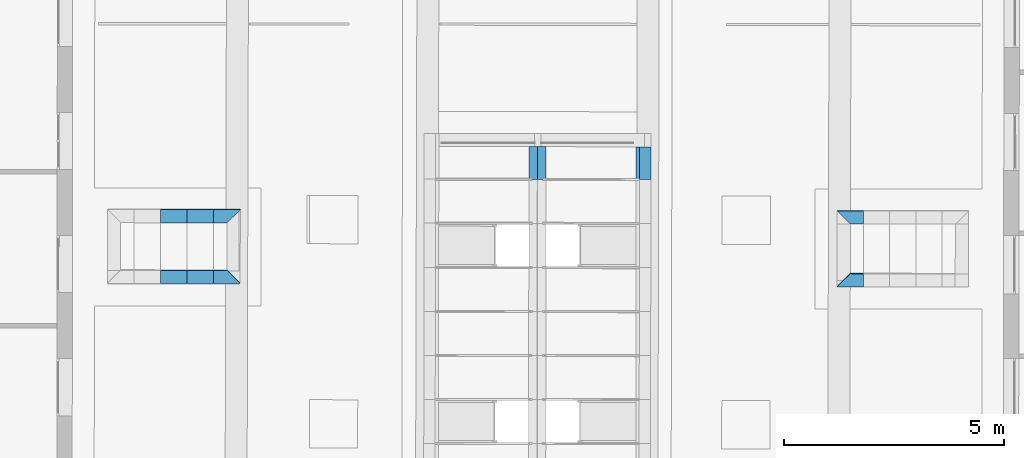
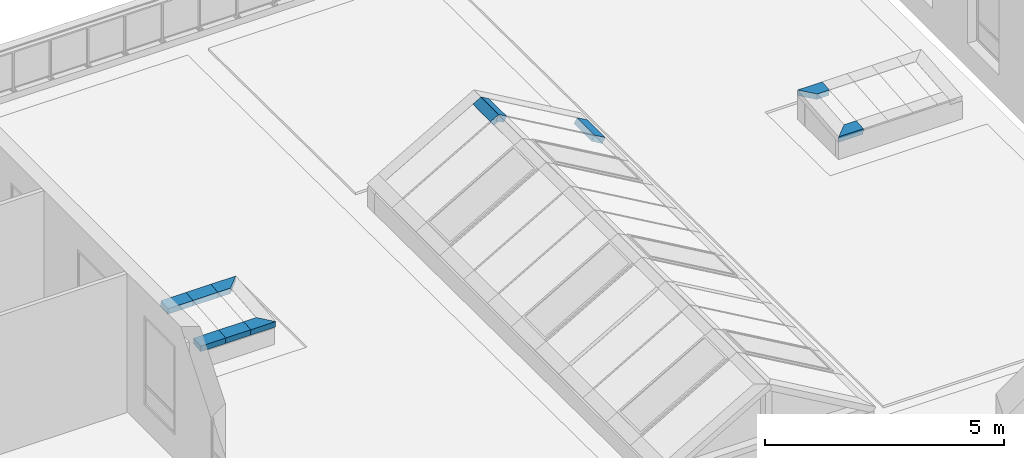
# One storey, part 26 of 101: 11 members, 3 elements without a shape of their own.
"""IFC2X3 building model written with IfcOpenShell, lengths in metres."""

from ifc_helpers import new_model, entity, si_unit, converted_unit, derived_unit, direction, frame, frame_2d, origin, origin_2d_with_axis, place, context, subcontext, project, spatial, polyline, rectangle, outline, extrude, source, transform, mapped, material, type_object, type_shapes, element, aggregate, save


model = new_model("IFC2X3")

# Units and contexts
model_context = context("Model", 3, precision=1e-05, world=origin(), true_north=direction((6.123233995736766e-17, 1.0)))
body_context = subcontext(model_context, "Body", "Model", "MODEL_VIEW")
ifc_project = project(units=[si_unit("LENGTHUNIT", "METRE"), si_unit("AREAUNIT", "SQUARE_METRE"), converted_unit("PLANEANGLEUNIT", "DEGREE", entity("IfcPlaneAngleMeasure", 0.017453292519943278), si_unit("PLANEANGLEUNIT", "RADIAN"), dimensions=[0, 0, 0, 0, 0, 0, 0]), derived_unit("THERMALTRANSMITTANCEUNIT", [(si_unit("MASSUNIT", "GRAM", prefix="KILO"), 1), (si_unit("THERMODYNAMICTEMPERATUREUNIT", "KELVIN"), -1), (si_unit("TIMEUNIT", "SECOND"), -3)])], contexts=[model_context])

# Site, building, storey
site_placement = place(None, frame((1253.6752467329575, 2072.143113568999, 91.49999999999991), z_axis=(0.0, 0.0, 1.0), x_axis=(0.7237211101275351, 0.6900925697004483, 0.0)))
site = spatial("IfcSite", under=ifc_project, at=site_placement, Name="Surface", CompositionType="ELEMENT")
building_placement = place(site_placement, origin())
building = spatial("IfcBuilding", under=site, at=building_placement, CompositionType="ELEMENT")
storey_placement = place(building_placement, origin())
storey = spatial("IfcBuildingStorey", under=building, at=storey_placement, Name="0- Rdc", CompositionType="ELEMENT", Elevation=-5.764692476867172e-13)

# Roof, members
curtain_wall_type = type_object("IfcCurtainWallType", Name="Vitres inclinées:Toit en verre 1 m x 2 m", PredefinedType="NOTDEFINED")
roof_1_placement = place(storey_placement, origin())
roof_1 = element("IfcRoof", 1, at=roof_1_placement, inside=storey, type_object=curtain_wall_type, Name="Vitres inclinées:Toit en verre 1 m x 2 m", ObjectType="Vitres inclinées:Toit en verre 1 m x 2 m", ShapeType="NOTDEFINED")
ifc_material = material(Name="OMD_Aluminium blanc")
member_type_1 = type_object("IfcMemberType", Name="Meneau rectangulaire:22x300", PredefinedType="MULLION", material=ifc_material)
shared_shape_1 = source(origin(), body_context, "Body", "SweptSolid", [
    extrude(outline(polyline([(-0.3766529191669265, -0.14999999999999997), (0.22667387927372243, -0.14999999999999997), (0.22667387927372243, 0.14999999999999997), (-0.07669483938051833, 0.14999999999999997), (-0.3766529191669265, -0.14999999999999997)])), frame((-0.15, -0.010000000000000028, -0.3766529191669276), z_axis=(0.0, 1.0, 0.0), x_axis=(0.0, 0.0, -1.0)), (0.0, 0.0, 1.0), 0.15000000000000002),
])
type_shapes(member_type_1, [shared_shape_1])
member_1_placement = place(roof_1_placement, frame((171.44588213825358, 7.471089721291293, 0.2447997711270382), z_axis=(0.7228699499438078, -0.6909841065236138, 0.0), x_axis=(-0.6883547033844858, -0.7201192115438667, -0.08715574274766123)))
member_1 = element("IfcMember", 2, at=member_1_placement, type_object=member_type_1, material=ifc_material, Name="Meneau rectangulaire:22x300", ObjectType="Meneau rectangulaire:22x300", context=body_context, shape_type="MappedRepresentation", body=[
    mapped(shared_shape_1, transform((0.0, 0.0, 0.0), scale=1.0)),
])
member_type_2 = type_object("IfcMemberType", Name="Meneau rectangulaire:22x300", PredefinedType="MULLION", material=ifc_material)
shared_shape_2 = source(origin(), body_context, "Body", "SweptSolid", [
    extrude(rectangle(XDim=0.29999999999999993, YDim=0.15000000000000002, at=origin_2d_with_axis()), frame((-0.14999999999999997, 0.06499999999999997, -0.6035622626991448), z_axis=(0.0, 0.0, 1.0), x_axis=(-1.0, 0.0, 0.0)), (0.0, 0.0, 1.0), 0.6035622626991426),
])
type_shapes(member_type_2, [shared_shape_2])
member_2_placement = place(roof_1_placement, frame((170.57345830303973, 8.305030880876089, 0.2447997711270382), z_axis=(0.7228699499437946, -0.6909841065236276, 0.0), x_axis=(-0.6883547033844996, -0.7201192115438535, -0.08715574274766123)))
member_2 = element("IfcMember", 3, at=member_2_placement, type_object=member_type_2, material=ifc_material, Name="Meneau rectangulaire:22x300", ObjectType="Meneau rectangulaire:22x300", context=body_context, shape_type="MappedRepresentation", body=[
    mapped(shared_shape_2, transform((0.0, 0.0, 0.0), scale=1.0)),
])
member_3_placement = place(roof_1_placement, frame((171.00975532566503, 7.887978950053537, 0.24479977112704), z_axis=(0.7228699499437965, -0.6909841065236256, 0.0), x_axis=(-0.6883547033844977, -0.7201192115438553, -0.08715574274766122)))
member_3 = element("IfcMember", 4, at=member_3_placement, type_object=member_type_2, material=ifc_material, Name="Meneau rectangulaire:22x300", ObjectType="Meneau rectangulaire:22x300", context=body_context, shape_type="MappedRepresentation", body=[
    mapped(shared_shape_2, transform((0.0, 0.0, 0.0), scale=1.0)),
])
member_type_3 = type_object("IfcMemberType", Name="Meneau rectangulaire:22x300", PredefinedType="MULLION", material=ifc_material)
shared_shape_3 = source(origin(), body_context, "Body", "SweptSolid", [
    extrude(rectangle(XDim=0.29999999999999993, YDim=0.15000000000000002, at=origin_2d_with_axis()), frame((-0.14999999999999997, 0.06499999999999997, -0.6035622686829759), z_axis=(0.0, 0.0, 1.0), x_axis=(-1.0, 0.0, 0.0)), (0.0, 0.0, 1.0), 0.6035622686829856),
])
type_shapes(member_type_3, [shared_shape_3])
member_4_placement = place(roof_1_placement, frame((171.29719596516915, 9.935647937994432, 0.3916770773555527), z_axis=(-0.7227730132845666, 0.6910855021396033, 0.0), x_axis=(0.6884557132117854, 0.7200226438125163, 0.08715574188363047)))
member_4 = element("IfcMember", 5, at=member_4_placement, type_object=member_type_3, material=ifc_material, Name="Meneau rectangulaire:22x300", ObjectType="Meneau rectangulaire:22x300", context=body_context, shape_type="MappedRepresentation", body=[
    mapped(shared_shape_3, transform((0.0, 0.0, 0.0), scale=1.0)),
])
member_5_placement = place(roof_1_placement, frame((171.7334344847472, 9.518534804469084, 0.3916696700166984), z_axis=(-0.7227730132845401, 0.6910855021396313, 0.0), x_axis=(0.6884557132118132, 0.7200226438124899, 0.08715574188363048)))
member_5 = element("IfcMember", 6, at=member_5_placement, type_object=member_type_3, material=ifc_material, Name="Meneau rectangulaire:22x300", ObjectType="Meneau rectangulaire:22x300", context=body_context, shape_type="MappedRepresentation", body=[
    mapped(shared_shape_3, transform((0.0, 0.0, 0.0), scale=1.0)),
])
member_type_4 = type_object("IfcMemberType", Name="Meneau rectangulaire:22x300", PredefinedType="MULLION", material=ifc_material)
shared_shape_4 = source(origin(), body_context, "Body", "SweptSolid", [
    extrude(outline(polyline([(-0.22678121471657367, -0.14999999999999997), (0.37678105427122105, -0.15), (0.07678137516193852, 0.14999999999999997), (-0.22678121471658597, 0.14999999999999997), (-0.22678121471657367, -0.14999999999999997)])), frame((-0.14999999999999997, -0.010000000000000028, -0.22678121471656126), z_axis=(0.0, 1.0, 0.0), x_axis=(0.0, 0.0, -1.0)), (0.0, 0.0, 1.0), 0.15000000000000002),
])
type_shapes(member_type_4, [shared_shape_4])
member_6_placement = place(roof_1_placement, frame((172.1696730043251, 9.101421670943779, 0.3916622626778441), z_axis=(-0.7227730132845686, 0.6910855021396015, 0.0), x_axis=(0.6884557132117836, 0.7200226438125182, 0.08715574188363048)))
member_6 = element("IfcMember", 7, at=member_6_placement, type_object=member_type_4, material=ifc_material, Name="Meneau rectangulaire:22x300", ObjectType="Meneau rectangulaire:22x300", context=body_context, shape_type="MappedRepresentation", body=[
    mapped(shared_shape_4, transform((0.0, 0.0, 0.0), scale=1.0)),
])
aggregate(roof_1, [member_1, member_2, member_3, member_4, member_5, member_6])

roof_2_placement = place(storey_placement, origin())
roof_2 = element("IfcRoof", 8, at=roof_2_placement, inside=storey, type_object=curtain_wall_type, Name="Vitres inclinées:Toit en verre 1 m x 2 m", ObjectType="Vitres inclinées:Toit en verre 1 m x 2 m", ShapeType="NOTDEFINED")
member_type_5 = type_object("IfcMemberType", Name="Meneau rectangulaire:22x300", PredefinedType="MULLION", material=ifc_material)
shared_shape_5 = source(origin(), body_context, "Body", "SweptSolid", [
    extrude(outline(polyline([(-0.3733366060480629, -0.15000000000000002), (0.22333620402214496, -0.15), (0.22333620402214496, 0.14999999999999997), (-0.073335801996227, 0.14999999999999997), (-0.3733366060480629, -0.15000000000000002)])), frame((-0.15000000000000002, -0.00999999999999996, -0.37333660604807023), z_axis=(0.0, 1.0, 0.0), x_axis=(0.0, 0.0, -1.0)), (0.0, 0.0, 1.0), 0.14999999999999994),
])
type_shapes(member_type_5, [shared_shape_5])
member_7_placement = place(roof_2_placement, frame((182.41041921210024, -0.700042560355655, 0.41098165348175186), z_axis=(-0.7226273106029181, 0.6912378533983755, 0.0), x_axis=(0.6886074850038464, 0.7198774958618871, 0.08715573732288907)))
member_7 = element("IfcMember", 9, at=member_7_placement, type_object=member_type_5, material=ifc_material, Name="Meneau rectangulaire:22x300", ObjectType="Meneau rectangulaire:22x300", context=body_context, shape_type="MappedRepresentation", body=[
    mapped(shared_shape_5, transform((0.0, 0.0, 0.0), scale=1.0)),
])
member_type_6 = type_object("IfcMemberType", Name="Meneau rectangulaire:22x300", PredefinedType="MULLION", material=ifc_material)
shared_shape_6 = source(origin(), body_context, "Body", "SweptSolid", [
    extrude(outline(polyline([(-0.22361381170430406, -0.14999999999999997), (0.3736663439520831, -0.14999999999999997), (0.07356127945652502, 0.14999999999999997), (-0.22361381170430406, 0.14999999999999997), (-0.22361381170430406, -0.14999999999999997)])), frame((-0.14999999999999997, -0.010000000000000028, -0.22361381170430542), z_axis=(0.0, 1.0, 0.0), x_axis=(0.0, 0.0, -1.0)), (0.0, 0.0, 1.0), 0.15000000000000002),
])
type_shapes(member_type_6, [shared_shape_6])
member_8_placement = place(roof_2_placement, frame((181.64770454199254, -2.3614657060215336, 0.25979977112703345), z_axis=(0.7228702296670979, -0.6909838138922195, 0.0), x_axis=(-0.6883544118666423, -0.7201194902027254, -0.08715574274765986)))
member_8 = element("IfcMember", 10, at=member_8_placement, type_object=member_type_6, material=ifc_material, Name="Meneau rectangulaire:22x300", ObjectType="Meneau rectangulaire:22x300", context=body_context, shape_type="MappedRepresentation", body=[
    mapped(shared_shape_6, transform((0.0, 0.0, 0.0), scale=1.0)),
])
aggregate(roof_2, [member_7, member_8])

roof_3_placement = place(storey_placement, origin())
roof_3 = element("IfcRoof", 11, at=roof_3_placement, inside=storey, type_object=curtain_wall_type, Name="Vitres inclinées:Toit en verre 1 m x 2 m", ObjectType="Vitres inclinées:Toit en verre 1 m x 2 m", ShapeType="NOTDEFINED")
member_type_7 = type_object("IfcMemberType", Name="Meneau rectangulaire:22x150", PredefinedType="MULLION", material=ifc_material)
shared_shape_7 = source(origin(), body_context, "Body", "SweptSolid", [
    extrude(rectangle(XDim=0.21999999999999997, YDim=0.15000000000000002, at=frame_2d((-6.938893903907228e-18, 0.0), x_axis=(1.0, 0.0))), frame((-0.11000000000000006, 0.06500000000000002, -0.7415509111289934), z_axis=(0.0, 0.0, 1.0), x_axis=(-1.0, 0.0, 0.0)), (0.0, 0.0, 1.0), 0.7415509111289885),
])
type_shapes(member_type_7, [shared_shape_7])
member_9_placement = place(roof_3_placement, frame((178.4856954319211, 5.057365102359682, 1.7319236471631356), z_axis=(0.6909838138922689, 0.7228702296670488, 0.0), x_axis=(0.6260239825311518, -0.5984095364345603, 0.5000000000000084)))
member_9 = element("IfcMember", 12, at=member_9_placement, type_object=member_type_7, material=ifc_material, Name="Meneau rectangulaire:22x150", ObjectType="Meneau rectangulaire:22x150", context=body_context, shape_type="MappedRepresentation", body=[
    mapped(shared_shape_7, transform((0.0, 0.0, 0.0), scale=1.0)),
])
member_type_8 = type_object("IfcMemberType", Name="Meneau rectangulaire:22x300", PredefinedType="MULLION", material=ifc_material)
shared_shape_8 = source(origin(), body_context, "Body", "SweptSolid", [
    extrude(rectangle(XDim=0.29999999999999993, YDim=0.15000000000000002, at=origin_2d_with_axis()), frame((-0.14999999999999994, 0.06499999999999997, -0.7415509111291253), z_axis=(0.0, 0.0, 1.0), x_axis=(-1.0, 0.0, 0.0)), (0.0, 0.0, 1.0), 0.74155091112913),
])
type_shapes(member_type_8, [shared_shape_8])
member_10_placement = place(roof_3_placement, frame((180.3462690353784, 3.2788629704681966, 0.24589942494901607), z_axis=(0.6909838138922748, 0.7228702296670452, 0.0), x_axis=(0.6260239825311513, -0.5984095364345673, -0.5000000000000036)))
member_10 = element("IfcMember", 13, at=member_10_placement, type_object=member_type_8, material=ifc_material, Name="Meneau rectangulaire:22x300", ObjectType="Meneau rectangulaire:22x300", context=body_context, shape_type="MappedRepresentation", body=[
    mapped(shared_shape_8, transform((0.0, 0.0, 0.0), scale=1.0)),
])
member_type_9 = type_object("IfcMemberType", Name="Meneau rectangulaire:22x150", PredefinedType="MULLION", material=ifc_material)
shared_shape_9 = source(origin(), body_context, "Body", "SweptSolid", [
    extrude(rectangle(XDim=0.21999999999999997, YDim=0.14999999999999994, at=frame_2d((6.938893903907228e-18, 0.0), x_axis=(1.0, 0.0))), frame((-0.10999999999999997, 0.06499999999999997, -0.7415509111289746), z_axis=(0.0, 0.0, 1.0), x_axis=(-1.0, 0.0, 0.0)), (0.0, 0.0, 1.0), 0.7415509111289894),
])
type_shapes(member_type_9, [shared_shape_9])
member_11_placement = place(roof_3_placement, frame((177.97329575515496, 4.521320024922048, 1.7319236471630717), z_axis=(-0.6909838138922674, -0.7228702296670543, 0.0), x_axis=(-0.6260239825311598, 0.5984095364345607, 0.5000000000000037)))
member_11 = element("IfcMember", 14, at=member_11_placement, type_object=member_type_9, material=ifc_material, Name="Meneau rectangulaire:22x150", ObjectType="Meneau rectangulaire:22x150", context=body_context, shape_type="MappedRepresentation", body=[
    mapped(shared_shape_9, transform((0.0, 0.0, 0.0), scale=1.0)),
])
aggregate(roof_3, [member_9, member_10, member_11])

save(model, "model.ifc")
